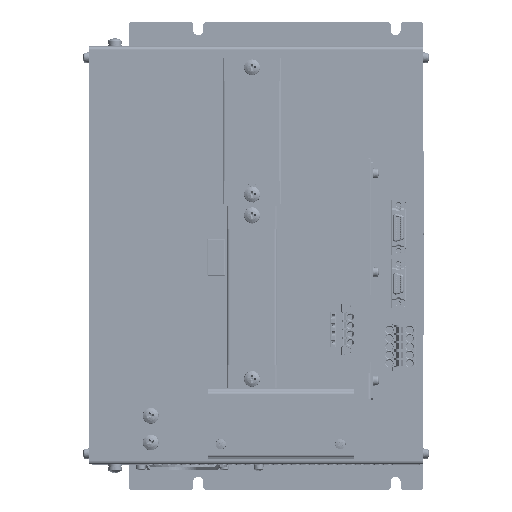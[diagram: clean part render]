
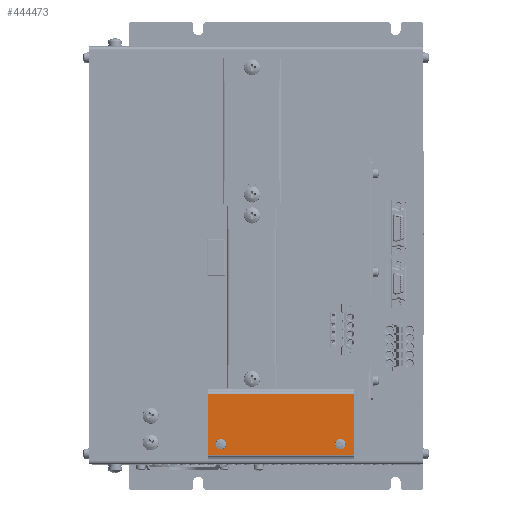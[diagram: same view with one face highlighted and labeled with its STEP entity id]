
A CAD part, top view. The second image highlights one B-rep face of the part: STEP entity #444473.
In plain terms, the highlighted planar face has unit normal (0, 0, 1).
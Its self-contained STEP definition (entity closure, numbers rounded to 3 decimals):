
#13926 = VECTOR ( 'NONE', #30217, 1000. ) ;
#19621 = ORIENTED_EDGE ( 'NONE', *, *, #110316, .F. ) ;
#20435 = DIRECTION ( 'NONE',  ( 1., 0., 0. ) ) ;
#27455 = EDGE_LOOP ( 'NONE', ( #331138, #242997, #453929, #276263 ) ) ;
#30217 = DIRECTION ( 'NONE',  ( 0., -1., 0. ) ) ;
#32051 = CARTESIAN_POINT ( 'NONE',  ( 16.528, -124.371, 193.343 ) ) ;
#41732 = CARTESIAN_POINT ( 'NONE',  ( -60.972, -116.871, 193.343 ) ) ;
#45414 = ORIENTED_EDGE ( 'NONE', *, *, #106955, .F. ) ;
#53549 = DIRECTION ( 'NONE',  ( 0., 0., 1. ) ) ;
#55798 = VERTEX_POINT ( 'NONE', #466675 ) ;
#55930 = CARTESIAN_POINT ( 'NONE',  ( 16.528, -87.071, 193.343 ) ) ;
#56184 = VERTEX_POINT ( 'NONE', #263731 ) ;
#58255 = DIRECTION ( 'NONE',  ( 0., 0., 1. ) ) ;
#70066 = CARTESIAN_POINT ( 'NONE',  ( -70.972, -87.071, 193.343 ) ) ;
#87325 = CARTESIAN_POINT ( 'NONE',  ( -64.972, -116.871, 193.343 ) ) ;
#88057 = EDGE_CURVE ( 'NONE', #334489, #56184, #289142, .T. ) ;
#100185 = CARTESIAN_POINT ( 'NONE',  ( -70.972, -124.371, 193.343 ) ) ;
#100728 = CARTESIAN_POINT ( 'NONE',  ( 8.528, -116.871, 193.343 ) ) ;
#101247 = ORIENTED_EDGE ( 'NONE', *, *, #442187, .F. ) ;
#102752 = CARTESIAN_POINT ( 'NONE',  ( 16.528, -124.371, 193.343 ) ) ;
#106394 = VECTOR ( 'NONE', #233946, 1000. ) ;
#106955 = EDGE_CURVE ( 'NONE', #106987, #217246, #229812, .T. ) ;
#106987 = VERTEX_POINT ( 'NONE', #87325 ) ;
#110316 = EDGE_CURVE ( 'NONE', #289901, #466594, #450026, .T. ) ;
#127655 = DIRECTION ( 'NONE',  ( 1., 0., 0. ) ) ;
#141310 = AXIS2_PLACEMENT_3D ( 'NONE', #155197, #444395, #266869 ) ;
#141341 = ORIENTED_EDGE ( 'NONE', *, *, #459705, .F. ) ;
#141638 = DIRECTION ( 'NONE',  ( 1., 0., 0. ) ) ;
#142205 = CARTESIAN_POINT ( 'NONE',  ( -70.972, -123.371, 193.343 ) ) ;
#143335 = AXIS2_PLACEMENT_3D ( 'NONE', #446821, #58255, #127655 ) ;
#151001 = EDGE_CURVE ( 'NONE', #55798, #56184, #328867, .T. ) ;
#155197 = CARTESIAN_POINT ( 'NONE',  ( -62.972, -116.871, 193.343 ) ) ;
#175620 = PLANE ( 'NONE',  #252236 ) ;
#193490 = VECTOR ( 'NONE', #415616, 1000. ) ;
#204767 = EDGE_CURVE ( 'NONE', #465718, #334489, #274498, .T. ) ;
#211866 = DIRECTION ( 'NONE',  ( 0., 0., -1. ) ) ;
#217246 = VERTEX_POINT ( 'NONE', #41732 ) ;
#229812 = CIRCLE ( 'NONE', #141310, 2. ) ;
#231802 = CARTESIAN_POINT ( 'NONE',  ( 16.528, -123.371, 193.343 ) ) ;
#233946 = DIRECTION ( 'NONE',  ( -1., 0., 0. ) ) ;
#239348 = FACE_BOUND ( 'NONE', #358180, .T. ) ;
#242997 = ORIENTED_EDGE ( 'NONE', *, *, #88057, .T. ) ;
#244756 = FACE_BOUND ( 'NONE', #362537, .T. ) ;
#250221 = DIRECTION ( 'NONE',  ( 0., 0., 1. ) ) ;
#252236 = AXIS2_PLACEMENT_3D ( 'NONE', #32051, #211866, #428595 ) ;
#263731 = CARTESIAN_POINT ( 'NONE',  ( 16.528, -123.371, 193.343 ) ) ;
#266869 = DIRECTION ( 'NONE',  ( 1., 0., 0. ) ) ;
#272488 = CIRCLE ( 'NONE', #368054, 2. ) ;
#274498 = LINE ( 'NONE', #100185, #325037 ) ;
#276263 = ORIENTED_EDGE ( 'NONE', *, *, #354148, .T. ) ;
#276866 = CARTESIAN_POINT ( 'NONE',  ( 10.528, -116.871, 193.343 ) ) ;
#289142 = LINE ( 'NONE', #231802, #193490 ) ;
#289901 = VERTEX_POINT ( 'NONE', #365545 ) ;
#325037 = VECTOR ( 'NONE', #350515, 1000. ) ;
#328867 = LINE ( 'NONE', #102752, #13926 ) ;
#331138 = ORIENTED_EDGE ( 'NONE', *, *, #204767, .T. ) ;
#334489 = VERTEX_POINT ( 'NONE', #142205 ) ;
#340393 = FACE_OUTER_BOUND ( 'NONE', #27455, .T. ) ;
#350515 = DIRECTION ( 'NONE',  ( 0., -1., 0. ) ) ;
#353524 = CIRCLE ( 'NONE', #143335, 2. ) ;
#354148 = EDGE_CURVE ( 'NONE', #55798, #465718, #443866, .T. ) ;
#358180 = EDGE_LOOP ( 'NONE', ( #141341, #45414 ) ) ;
#362537 = EDGE_LOOP ( 'NONE', ( #101247, #19621 ) ) ;
#365545 = CARTESIAN_POINT ( 'NONE',  ( 6.528, -116.871, 193.343 ) ) ;
#368054 = AXIS2_PLACEMENT_3D ( 'NONE', #379401, #53549, #20435 ) ;
#379401 = CARTESIAN_POINT ( 'NONE',  ( -62.972, -116.871, 193.343 ) ) ;
#401630 = AXIS2_PLACEMENT_3D ( 'NONE', #100728, #250221, #141638 ) ;
#415616 = DIRECTION ( 'NONE',  ( 1., 0., 0. ) ) ;
#428595 = DIRECTION ( 'NONE',  ( 0., -1., 0. ) ) ;
#442187 = EDGE_CURVE ( 'NONE', #466594, #289901, #353524, .T. ) ;
#443866 = LINE ( 'NONE', #55930, #106394 ) ;
#444395 = DIRECTION ( 'NONE',  ( 0., 0., 1. ) ) ;
#444473 = ADVANCED_FACE ( 'NONE', ( #340393, #244756, #239348 ), #175620, .F. ) ;
#446821 = CARTESIAN_POINT ( 'NONE',  ( 8.528, -116.871, 193.343 ) ) ;
#450026 = CIRCLE ( 'NONE', #401630, 2. ) ;
#453929 = ORIENTED_EDGE ( 'NONE', *, *, #151001, .F. ) ;
#459705 = EDGE_CURVE ( 'NONE', #217246, #106987, #272488, .T. ) ;
#465718 = VERTEX_POINT ( 'NONE', #70066 ) ;
#466594 = VERTEX_POINT ( 'NONE', #276866 ) ;
#466675 = CARTESIAN_POINT ( 'NONE',  ( 16.528, -87.071, 193.343 ) ) ;
